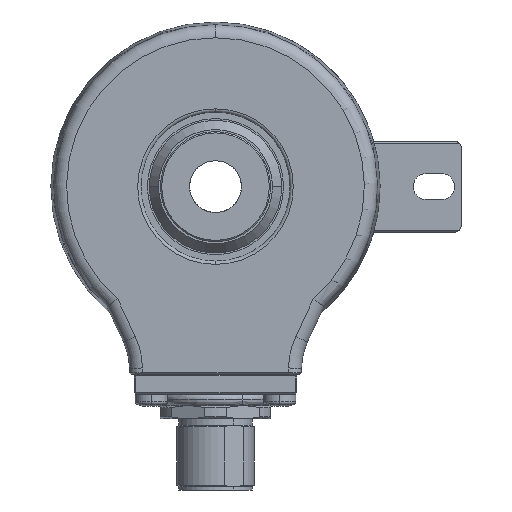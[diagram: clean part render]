
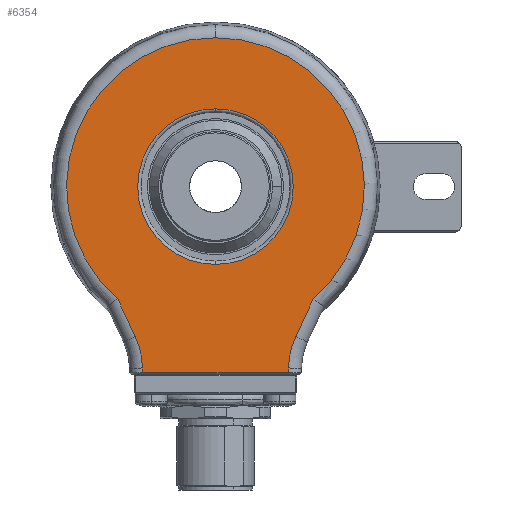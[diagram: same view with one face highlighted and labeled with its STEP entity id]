
A CAD part, left-side view. The second image highlights one B-rep face of the part: STEP entity #6354.
In plain terms, the highlighted planar face has unit normal (-1, 0, 0).
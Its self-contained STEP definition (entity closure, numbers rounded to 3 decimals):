
#63 = EDGE_CURVE ( 'NONE', #1420, #1373, #21300, .T. ) ;
#280 = CIRCLE ( 'NONE', #6970, 12. ) ;
#592 = LINE ( 'NONE', #3476, #9969 ) ;
#795 = AXIS2_PLACEMENT_3D ( 'NONE', #23242, #11307, #25230 ) ;
#1135 = VERTEX_POINT ( 'NONE', #5912 ) ;
#1147 = DIRECTION ( 'NONE',  ( 1., 0., 0. ) ) ;
#1373 = VERTEX_POINT ( 'NONE', #2783 ) ;
#1420 = VERTEX_POINT ( 'NONE', #10800 ) ;
#1616 = DIRECTION ( 'NONE',  ( 0., 0., 1. ) ) ;
#2004 = CIRCLE ( 'NONE', #25737, 22.972 ) ;
#2783 = CARTESIAN_POINT ( 'NONE',  ( -21., 0., 22.972 ) ) ;
#2975 = EDGE_CURVE ( 'NONE', #14889, #20298, #14484, .T. ) ;
#3197 = VERTEX_POINT ( 'NONE', #17356 ) ;
#3476 = CARTESIAN_POINT ( 'NONE',  ( -21., -11.752, -0.205 ) ) ;
#3720 = VERTEX_POINT ( 'NONE', #11375 ) ;
#3811 = AXIS2_PLACEMENT_3D ( 'NONE', #23011, #1147, #15025 ) ;
#4171 = VECTOR ( 'NONE', #5879, 1000. ) ;
#4564 = VERTEX_POINT ( 'NONE', #19362 ) ;
#4878 = DIRECTION ( 'NONE',  ( 0., -1., 0. ) ) ;
#5757 = VERTEX_POINT ( 'NONE', #9072 ) ;
#5812 = EDGE_CURVE ( 'NONE', #20298, #25837, #16025, .T. ) ;
#5847 = AXIS2_PLACEMENT_3D ( 'NONE', #6481, #20392, #8504 ) ;
#5879 = DIRECTION ( 'NONE',  ( 0., -0.017, -1. ) ) ;
#5912 = CARTESIAN_POINT ( 'NONE',  ( -21., 11.255, -28.695 ) ) ;
#6354 = ADVANCED_FACE ( 'NONE', ( #16002, #7345 ), #20977, .F. ) ;
#6481 = CARTESIAN_POINT ( 'NONE',  ( -21., 0., 0. ) ) ;
#6709 = CARTESIAN_POINT ( 'NONE',  ( -21., 0., 0. ) ) ;
#6970 = AXIS2_PLACEMENT_3D ( 'NONE', #6709, #20627, #8737 ) ;
#7345 = FACE_OUTER_BOUND ( 'NONE', #18449, .T. ) ;
#7399 = CARTESIAN_POINT ( 'NONE',  ( -21., 12.39, -23.112 ) ) ;
#7460 = ORIENTED_EDGE ( 'NONE', *, *, #17450, .T. ) ;
#7477 = CARTESIAN_POINT ( 'NONE',  ( -21., 0., 0. ) ) ;
#8242 = CIRCLE ( 'NONE', #5847, 12. ) ;
#8276 = ORIENTED_EDGE ( 'NONE', *, *, #17262, .T. ) ;
#8504 = DIRECTION ( 'NONE',  ( 0., 0., 1. ) ) ;
#8737 = DIRECTION ( 'NONE',  ( 0., 0., 1. ) ) ;
#8741 = CARTESIAN_POINT ( 'NONE',  ( -21., -11.268, -27.974 ) ) ;
#8744 = ORIENTED_EDGE ( 'NONE', *, *, #11745, .T. ) ;
#9072 = CARTESIAN_POINT ( 'NONE',  ( -21., 0., 12. ) ) ;
#9478 = AXIS2_PLACEMENT_3D ( 'NONE', #10008, #23946, #11997 ) ;
#9484 = DIRECTION ( 'NONE',  ( 0., 0., 1. ) ) ;
#9487 = LINE ( 'NONE', #11888, #4171 ) ;
#9496 = DIRECTION ( 'NONE',  ( 0., -0.017, 1. ) ) ;
#9969 = VECTOR ( 'NONE', #9496, 1000. ) ;
#10008 = CARTESIAN_POINT ( 'NONE',  ( -21., -23.266, -28.183 ) ) ;
#10800 = CARTESIAN_POINT ( 'NONE',  ( -21., -15.091, -17.32 ) ) ;
#11307 = DIRECTION ( 'NONE',  ( 1., 0., 0. ) ) ;
#11375 = CARTESIAN_POINT ( 'NONE',  ( -21., 0., -12. ) ) ;
#11745 = EDGE_CURVE ( 'NONE', #5757, #3720, #8242, .T. ) ;
#11888 = CARTESIAN_POINT ( 'NONE',  ( -21., 11.752, -0.205 ) ) ;
#11997 = DIRECTION ( 'NONE',  ( 0., 0., 1. ) ) ;
#12119 = CIRCLE ( 'NONE', #9478, 12. ) ;
#13370 = ORIENTED_EDGE ( 'NONE', *, *, #21412, .T. ) ;
#13664 = VECTOR ( 'NONE', #4878, 1000. ) ;
#14137 = CARTESIAN_POINT ( 'NONE',  ( -21., 15.091, -17.32 ) ) ;
#14484 = LINE ( 'NONE', #7399, #23892 ) ;
#14691 = EDGE_LOOP ( 'NONE', ( #8744, #19500 ) ) ;
#14889 = VERTEX_POINT ( 'NONE', #14137 ) ;
#14958 = ORIENTED_EDGE ( 'NONE', *, *, #23106, .T. ) ;
#15025 = DIRECTION ( 'NONE',  ( 0., 0., 1. ) ) ;
#16002 = FACE_BOUND ( 'NONE', #14691, .T. ) ;
#16025 = CIRCLE ( 'NONE', #795, 12. ) ;
#16581 = ORIENTED_EDGE ( 'NONE', *, *, #21607, .T. ) ;
#17262 = EDGE_CURVE ( 'NONE', #1373, #14889, #2004, .T. ) ;
#17356 = CARTESIAN_POINT ( 'NONE',  ( -21., -11.255, -28.695 ) ) ;
#17450 = EDGE_CURVE ( 'NONE', #25837, #1135, #9487, .T. ) ;
#18230 = VERTEX_POINT ( 'NONE', #8741 ) ;
#18449 = EDGE_LOOP ( 'NONE', ( #7460, #13370, #16581, #20568, #14958, #20653, #8276, #24477, #22661 ) ) ;
#18955 = AXIS2_PLACEMENT_3D ( 'NONE', #23756, #23846, #1616 ) ;
#19362 = CARTESIAN_POINT ( 'NONE',  ( -21., -12.39, -23.112 ) ) ;
#19500 = ORIENTED_EDGE ( 'NONE', *, *, #21297, .T. ) ;
#19712 = DIRECTION ( 'NONE',  ( 0., -0.423, 0.906 ) ) ;
#20298 = VERTEX_POINT ( 'NONE', #20940 ) ;
#20392 = DIRECTION ( 'NONE',  ( 1., 0., 0. ) ) ;
#20568 = ORIENTED_EDGE ( 'NONE', *, *, #21799, .T. ) ;
#20627 = DIRECTION ( 'NONE',  ( 1., 0., 0. ) ) ;
#20653 = ORIENTED_EDGE ( 'NONE', *, *, #63, .T. ) ;
#20795 = LINE ( 'NONE', #25752, #25457 ) ;
#20940 = CARTESIAN_POINT ( 'NONE',  ( -21., 12.39, -23.112 ) ) ;
#20977 = PLANE ( 'NONE',  #3811 ) ;
#21292 = DIRECTION ( 'NONE',  ( 0., -0.423, -0.906 ) ) ;
#21297 = EDGE_CURVE ( 'NONE', #3720, #5757, #280, .T. ) ;
#21300 = CIRCLE ( 'NONE', #18955, 22.972 ) ;
#21373 = DIRECTION ( 'NONE',  ( -1., 0., 0. ) ) ;
#21412 = EDGE_CURVE ( 'NONE', #1135, #3197, #24930, .T. ) ;
#21607 = EDGE_CURVE ( 'NONE', #3197, #18230, #592, .T. ) ;
#21799 = EDGE_CURVE ( 'NONE', #18230, #4564, #12119, .T. ) ;
#22661 = ORIENTED_EDGE ( 'NONE', *, *, #5812, .T. ) ;
#23011 = CARTESIAN_POINT ( 'NONE',  ( -21., 0., 0. ) ) ;
#23106 = EDGE_CURVE ( 'NONE', #4564, #1420, #20795, .T. ) ;
#23242 = CARTESIAN_POINT ( 'NONE',  ( -21., 23.266, -28.183 ) ) ;
#23564 = CARTESIAN_POINT ( 'NONE',  ( -21., 11.268, -27.974 ) ) ;
#23756 = CARTESIAN_POINT ( 'NONE',  ( -21., 0., 0. ) ) ;
#23846 = DIRECTION ( 'NONE',  ( -1., 0., 0. ) ) ;
#23892 = VECTOR ( 'NONE', #21292, 1000. ) ;
#23946 = DIRECTION ( 'NONE',  ( 1., 0., 0. ) ) ;
#24477 = ORIENTED_EDGE ( 'NONE', *, *, #2975, .T. ) ;
#24835 = CARTESIAN_POINT ( 'NONE',  ( -21., -11.25, -28.695 ) ) ;
#24930 = LINE ( 'NONE', #24835, #13664 ) ;
#25230 = DIRECTION ( 'NONE',  ( 0., 0., 1. ) ) ;
#25457 = VECTOR ( 'NONE', #19712, 1000. ) ;
#25737 = AXIS2_PLACEMENT_3D ( 'NONE', #7477, #21373, #9484 ) ;
#25752 = CARTESIAN_POINT ( 'NONE',  ( -21., -14.953, -17.615 ) ) ;
#25837 = VERTEX_POINT ( 'NONE', #23564 ) ;
